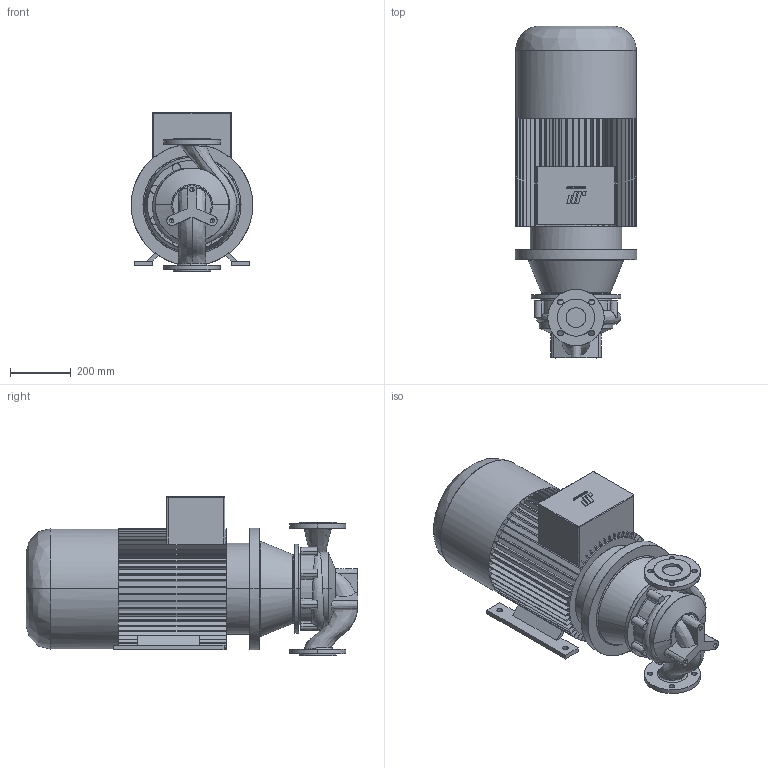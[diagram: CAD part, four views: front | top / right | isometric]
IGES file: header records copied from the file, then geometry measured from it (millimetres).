
Start section: CombiLine
Global section: file name: CLB_65-200_IEC200L_ND10.igs; native system:  By UGS Corp.; preprocessor: XPlus GENERIC/IGES 3.0; author: Stageplaats; organization: Johnson Pump Water B.V.; date: 20070716.135549; units: millimetre
Bounding box: 400 x 1091.5 x 525 mm (x, y, z)
Surface area: 2616664.6 mm2 (no closed solid volume)
Topology: 0 solids, 0 shells, 592 faces, 3586 edges, 3580 vertices
Faces by surface type: bspline 592
